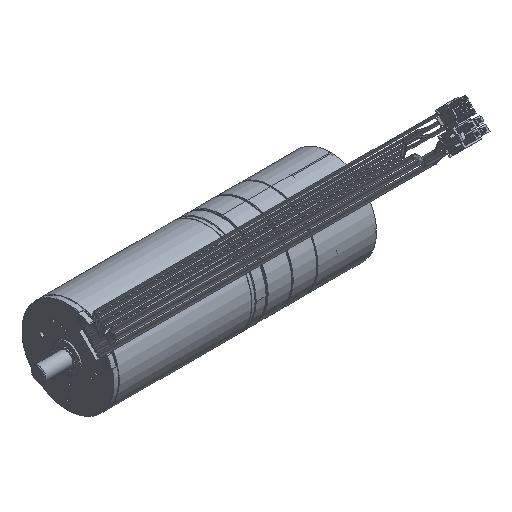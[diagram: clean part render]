
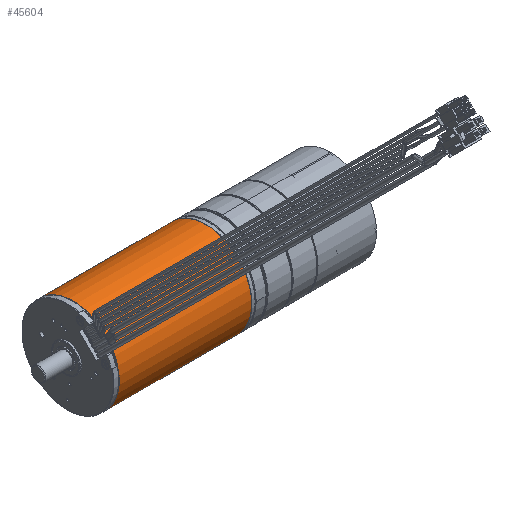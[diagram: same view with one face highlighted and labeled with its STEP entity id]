
A CAD part, isometric view. The second image highlights one B-rep face of the part: STEP entity #45604.
In plain terms, the highlighted cylindrical face has radius 26 mm (diameter 52 mm), a partial arc.
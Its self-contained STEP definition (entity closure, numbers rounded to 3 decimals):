
#427 = CARTESIAN_POINT ( 'NONE',  ( 2.1, 0., 0. ) ) ;
#1619 = CARTESIAN_POINT ( 'NONE',  ( -25.84, 0., -26. ) ) ;
#4107 = VECTOR ( 'NONE', #46897, 1000. ) ;
#7130 = DIRECTION ( 'NONE',  ( 0., 0., -1. ) ) ;
#7349 = LINE ( 'NONE', #56487, #20509 ) ;
#7722 = DIRECTION ( 'NONE',  ( -1., 0., 0. ) ) ;
#17268 = FACE_OUTER_BOUND ( 'NONE', #50379, .T. ) ;
#18935 = CARTESIAN_POINT ( 'NONE',  ( -25.84, 0., 0. ) ) ;
#20509 = VECTOR ( 'NONE', #43725, 1000. ) ;
#24584 = ORIENTED_EDGE ( 'NONE', *, *, #82140, .T. ) ;
#27557 = CIRCLE ( 'NONE', #81553, 26. ) ;
#30917 = CARTESIAN_POINT ( 'NONE',  ( 2.1, 0., 26. ) ) ;
#31882 = VERTEX_POINT ( 'NONE', #30917 ) ;
#33666 = EDGE_CURVE ( 'NONE', #31882, #80521, #44226, .T. ) ;
#34943 = AXIS2_PLACEMENT_3D ( 'NONE', #18935, #44548, #44830 ) ;
#38478 = CARTESIAN_POINT ( 'NONE',  ( 2.1, 0., -26. ) ) ;
#42333 = VERTEX_POINT ( 'NONE', #80378 ) ;
#43725 = DIRECTION ( 'NONE',  ( 1., 0., 0. ) ) ;
#44226 = CIRCLE ( 'NONE', #80634, 26. ) ;
#44548 = DIRECTION ( 'NONE',  ( 1., 0., 0. ) ) ;
#44830 = DIRECTION ( 'NONE',  ( 0., 0., -1. ) ) ;
#45604 = ADVANCED_FACE ( 'NONE', ( #17268 ), #60333, .T. ) ;
#45752 = DIRECTION ( 'NONE',  ( 1., 0., 0. ) ) ;
#46306 = CARTESIAN_POINT ( 'NONE',  ( 76.9, 0., 0. ) ) ;
#46897 = DIRECTION ( 'NONE',  ( 1., 0., 0. ) ) ;
#48136 = ORIENTED_EDGE ( 'NONE', *, *, #74321, .F. ) ;
#49436 = CARTESIAN_POINT ( 'NONE',  ( 76.9, 0., 26. ) ) ;
#50379 = EDGE_LOOP ( 'NONE', ( #48136, #72649, #54936, #24584 ) ) ;
#52674 = DIRECTION ( 'NONE',  ( 0., 0., -1. ) ) ;
#53549 = LINE ( 'NONE', #1619, #4107 ) ;
#54936 = ORIENTED_EDGE ( 'NONE', *, *, #64398, .T. ) ;
#56487 = CARTESIAN_POINT ( 'NONE',  ( -25.84, 0., 26. ) ) ;
#60333 = CYLINDRICAL_SURFACE ( 'NONE', #34943, 26. ) ;
#64398 = EDGE_CURVE ( 'NONE', #80521, #42333, #53549, .T. ) ;
#66889 = VERTEX_POINT ( 'NONE', #49436 ) ;
#72649 = ORIENTED_EDGE ( 'NONE', *, *, #33666, .T. ) ;
#74321 = EDGE_CURVE ( 'NONE', #31882, #66889, #7349, .T. ) ;
#80378 = CARTESIAN_POINT ( 'NONE',  ( 76.9, 0., -26. ) ) ;
#80521 = VERTEX_POINT ( 'NONE', #38478 ) ;
#80634 = AXIS2_PLACEMENT_3D ( 'NONE', #427, #45752, #7130 ) ;
#81553 = AXIS2_PLACEMENT_3D ( 'NONE', #46306, #7722, #52674 ) ;
#82140 = EDGE_CURVE ( 'NONE', #42333, #66889, #27557, .T. ) ;
